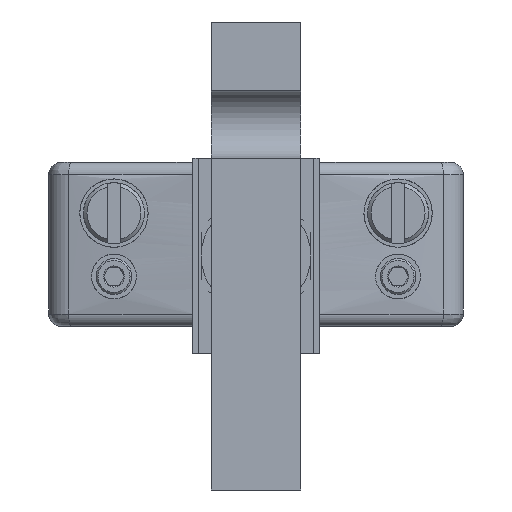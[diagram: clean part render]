
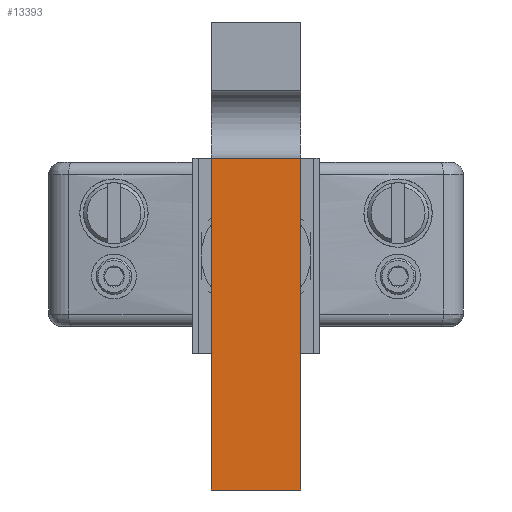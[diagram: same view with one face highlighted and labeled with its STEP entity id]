
A CAD part, left-side view. The second image highlights one B-rep face of the part: STEP entity #13393.
In plain terms, the highlighted planar face has unit normal (-1, 0, 0).
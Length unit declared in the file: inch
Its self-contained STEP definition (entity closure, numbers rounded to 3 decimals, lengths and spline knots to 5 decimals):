
#240=PLANE('',#14720);
#817=FACE_OUTER_BOUND('',#1598,.T.);
#1598=EDGE_LOOP('',(#9165,#9166,#9167,#9168));
#2659=LINE('',#23484,#3977);
#2663=LINE('',#23491,#3981);
#2664=LINE('',#23493,#3982);
#2665=LINE('',#23494,#3983);
#3977=VECTOR('',#16292,1.);
#3981=VECTOR('',#16300,1.);
#3982=VECTOR('',#16301,1.);
#3983=VECTOR('',#16302,1.);
#5406=VERTEX_POINT('',#23481);
#5407=VERTEX_POINT('',#23483);
#5408=VERTEX_POINT('',#23490);
#5409=VERTEX_POINT('',#23492);
#6883=EDGE_CURVE('',#5407,#5406,#2659,.T.);
#6887=EDGE_CURVE('',#5408,#5406,#2663,.T.);
#6888=EDGE_CURVE('',#5409,#5408,#2664,.T.);
#6889=EDGE_CURVE('',#5407,#5409,#2665,.T.);
#9165=ORIENTED_EDGE('',*,*,#6883,.T.);
#9166=ORIENTED_EDGE('',*,*,#6887,.F.);
#9167=ORIENTED_EDGE('',*,*,#6888,.F.);
#9168=ORIENTED_EDGE('',*,*,#6889,.F.);
#13393=ADVANCED_FACE('',(#817),#240,.F.);
#14720=AXIS2_PLACEMENT_3D('',#23489,#16298,#16299);
#16292=DIRECTION('',(0.,1.,0.));
#16298=DIRECTION('center_axis',(1.,0.,0.));
#16299=DIRECTION('ref_axis',(0.,1.,0.));
#16300=DIRECTION('',(0.,0.,1.));
#16301=DIRECTION('',(0.,1.,0.));
#16302=DIRECTION('',(0.,0.,-1.));
#23481=CARTESIAN_POINT('',(5.00957,38.4754,6.229));
#23483=CARTESIAN_POINT('',(5.00957,38.0154,6.229));
#23484=CARTESIAN_POINT('',(5.00957,38.2454,6.229));
#23489=CARTESIAN_POINT('Origin',(5.00957,38.2454,5.729));
#23490=CARTESIAN_POINT('',(5.00957,38.4754,4.529));
#23491=CARTESIAN_POINT('',(5.00957,38.4754,5.729));
#23492=CARTESIAN_POINT('',(5.00957,38.0154,4.529));
#23493=CARTESIAN_POINT('',(5.00957,38.2454,4.529));
#23494=CARTESIAN_POINT('',(5.00957,38.0154,5.729));
